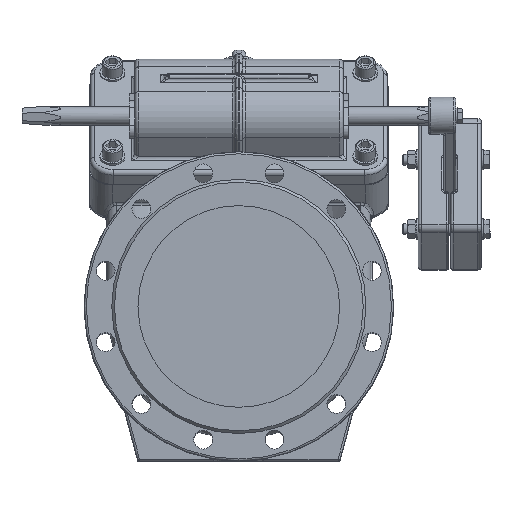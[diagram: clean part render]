
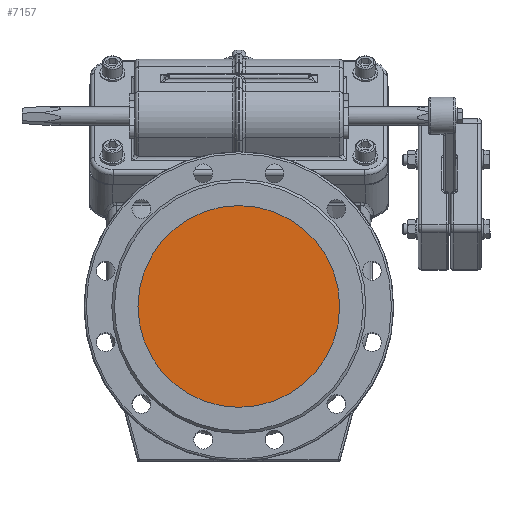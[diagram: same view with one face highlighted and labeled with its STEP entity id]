
A CAD part, top view. The second image highlights one B-rep face of the part: STEP entity #7157.
In plain terms, the highlighted planar face has unit normal (0, 0, 1).
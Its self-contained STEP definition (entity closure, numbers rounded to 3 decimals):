
#7157=ADVANCED_FACE('',(#21801),#21803,.F.);
#21801=FACE_BOUND('',#21802,.T.);
#21802=EDGE_LOOP('',(#32029));
#21803=PLANE('',#21804);
#21804=AXIS2_PLACEMENT_3D('',#21805,#21806,#21807);
#21805=CARTESIAN_POINT('',(0.,0.,340.));
#21806=DIRECTION('',(0.,0.,-1.));
#21807=DIRECTION('',(-1.,0.,0.));
#32029=ORIENTED_EDGE('',*,*,#36321,.T.);
#36321=EDGE_CURVE('',#40639,#40639,#40640,.T.);
#40639=VERTEX_POINT('',#65612);
#40640=CIRCLE('',#65613,150.);
#65612=CARTESIAN_POINT('',(0.,150.,340.));
#65613=AXIS2_PLACEMENT_3D('',#65614,#65615,#65616);
#65614=CARTESIAN_POINT('',(0.,0.,340.));
#65615=DIRECTION('',(0.,0.,1.));
#65616=DIRECTION('',(-1.,0.,0.));
